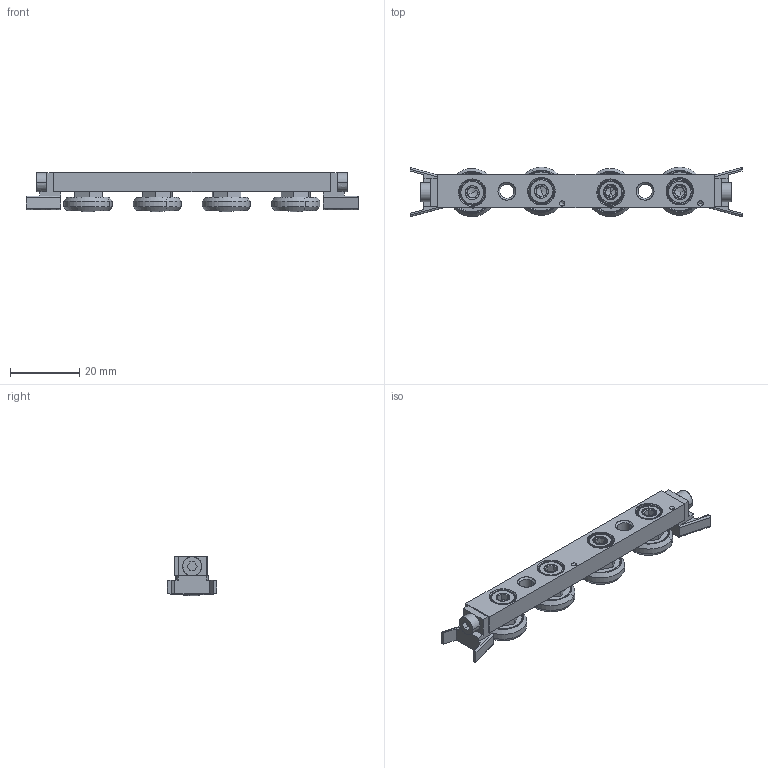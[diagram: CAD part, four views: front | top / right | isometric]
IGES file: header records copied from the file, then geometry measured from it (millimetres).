
Start section: SolidWorks IGES file using analytic representation for surfaces
Global section: file name: E:\J-00018 - L1918-L1963 LCompact Rail\L1918_v2\L1918.CSW18_v2\L1918.CSW18_IGES\L1918.CSW18-80-2ZUA.igs; native system: SolidWorks 2017; preprocessor: SolidWorks 2017; author: liam_; date: 190629.230246; units: millimetre
Bounding box: 96 x 14.32 x 11.54 mm (x, y, z)
Surface area: 7614.6 mm2 (no closed solid volume)
Topology: 0 solids, 0 shells, 456 faces, 5734 edges, 5706 vertices
Faces by surface type: bspline 260, revolution 196
